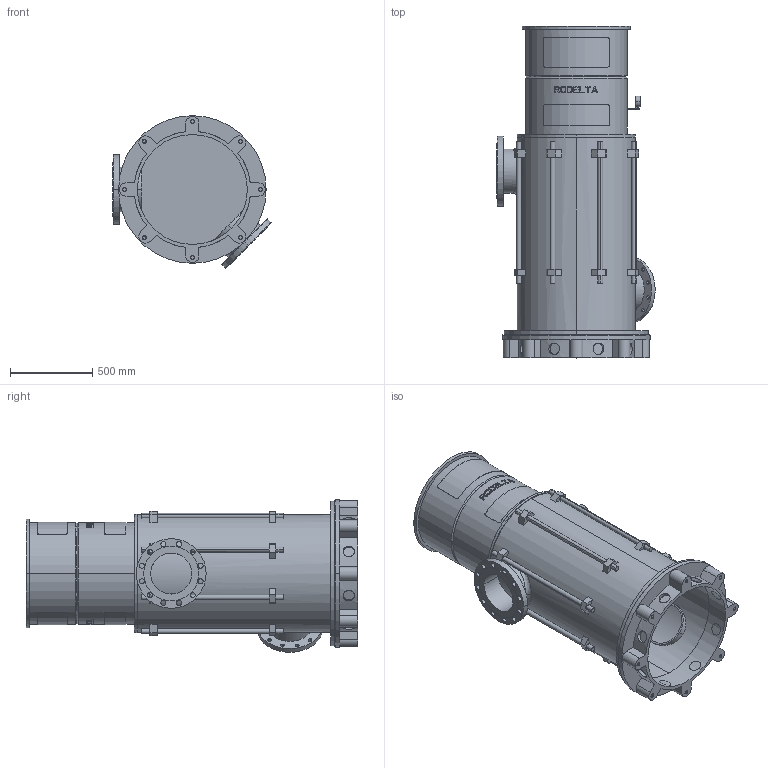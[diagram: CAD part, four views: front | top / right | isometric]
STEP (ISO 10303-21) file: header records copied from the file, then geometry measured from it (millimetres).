
FILE_DESCRIPTION((''),'2;1');
FILE_NAME('LS10_2TR_0GR_P_PN25','2025-10-20T13:24:47',('Lyritlocal'),(''),'CREO PARAMETRIC BY PTC INC, 2022014','CREO PARAMETRIC BY PTC INC, 2022014','');
FILE_SCHEMA(('CONFIG_CONTROL_DESIGN'));
Length unit declared in the file: millimetre
Products named in the file (1): LS10_2TR_0GR_P_PN25
Bounding box: 965.48 x 2023 x 930.48 mm (x, y, z)
Volume: 90798499.9 mm3; surface area: 12391794.7 mm2
Topology: 3 solids, 11 shells, 752 faces, 1934 edges, 1288 vertices
Faces by surface type: plane 462, cylinder 274, cone 12, bspline 4
Entity records: 24341 total; most frequent: CARTESIAN_POINT 5995, ORIENTED_EDGE 3836, DIRECTION 3662, EDGE_CURVE 1934, AXIS2_PLACEMENT_3D 1381, VERTEX_POINT 1288, EDGE_LOOP 924, VECTOR 900
